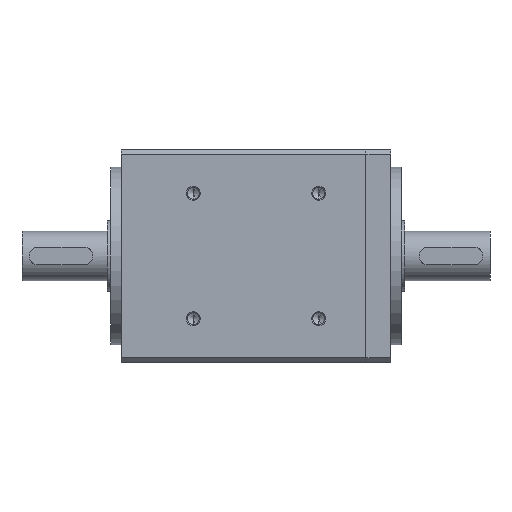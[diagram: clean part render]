
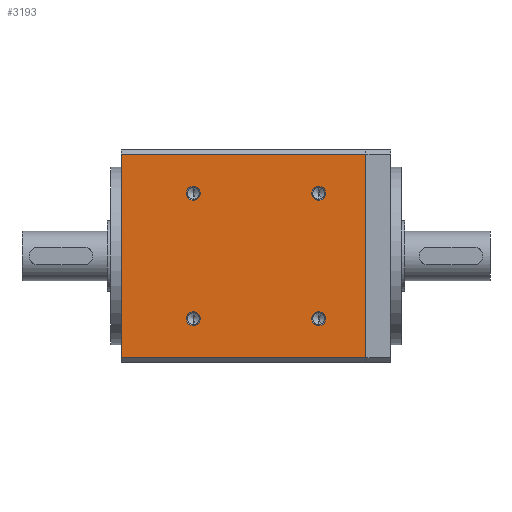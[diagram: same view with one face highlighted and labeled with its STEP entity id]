
A CAD part, left-side view. The second image highlights one B-rep face of the part: STEP entity #3193.
In plain terms, the highlighted planar face has unit normal (-1, 0, 0).
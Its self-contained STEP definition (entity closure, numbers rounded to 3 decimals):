
#51 = AXIS2_PLACEMENT_3D ( 'NONE', #4175, #4176, #4177 ) ;
#52 = AXIS2_PLACEMENT_3D ( 'NONE', #4033, #4034, #4035 ) ;
#53 = AXIS2_PLACEMENT_3D ( 'NONE', #4036, #4037, #4038 ) ;
#54 = AXIS2_PLACEMENT_3D ( 'NONE', #4039, #4040, #4041 ) ;
#195 = AXIS2_PLACEMENT_3D ( 'NONE', #770, #771, #772 ) ;
#198 = AXIS2_PLACEMENT_3D ( 'NONE', #791, #792, #793 ) ;
#201 = AXIS2_PLACEMENT_3D ( 'NONE', #812, #813, #814 ) ;
#204 = AXIS2_PLACEMENT_3D ( 'NONE', #3443, #3444, #3445 ) ;
#294 = AXIS2_PLACEMENT_3D ( 'NONE', #2096, #2097, #2098 ) ;
#457 = VERTEX_POINT ( 'NONE', #3938 ) ;
#459 = VERTEX_POINT ( 'NONE', #3919 ) ;
#478 = VERTEX_POINT ( 'NONE', #916 ) ;
#483 = VERTEX_POINT ( 'NONE', #902 ) ;
#506 = VERTEX_POINT ( 'NONE', #920 ) ;
#507 = VERTEX_POINT ( 'NONE', #919 ) ;
#534 = VERTEX_POINT ( 'NONE', #3797 ) ;
#535 = VERTEX_POINT ( 'NONE', #3794 ) ;
#770 = CARTESIAN_POINT ( 'NONE',  ( -30., 21.178, -17.678 ) ) ;
#771 = DIRECTION ( 'NONE',  ( -1., 0., 0. ) ) ;
#772 = DIRECTION ( 'NONE',  ( 0., 0., 1. ) ) ;
#791 = CARTESIAN_POINT ( 'NONE',  ( -30., 21.178, 17.678 ) ) ;
#792 = DIRECTION ( 'NONE',  ( -1., 0., 0. ) ) ;
#793 = DIRECTION ( 'NONE',  ( 0., 0., 1. ) ) ;
#812 = CARTESIAN_POINT ( 'NONE',  ( -30., -14.178, 17.678 ) ) ;
#813 = DIRECTION ( 'NONE',  ( -1., 0., 0. ) ) ;
#814 = DIRECTION ( 'NONE',  ( 0., 0., 1. ) ) ;
#856 = VERTEX_POINT ( 'NONE', #3753 ) ;
#859 = VERTEX_POINT ( 'NONE', #2790 ) ;
#860 = VERTEX_POINT ( 'NONE', #2795 ) ;
#861 = VERTEX_POINT ( 'NONE', #2793 ) ;
#902 = CARTESIAN_POINT ( 'NONE',  ( -30., 21.178, 15.678 ) ) ;
#916 = CARTESIAN_POINT ( 'NONE',  ( -30., 21.178, 19.678 ) ) ;
#919 = CARTESIAN_POINT ( 'NONE',  ( -30., 21.178, -19.678 ) ) ;
#920 = CARTESIAN_POINT ( 'NONE',  ( -30., 21.178, -15.678 ) ) ;
#1972 = LINE ( 'NONE', #4170, #1974 ) ;
#1974 = VECTOR ( 'NONE', #4171, 1000. ) ;
#1976 = CIRCLE ( 'NONE', #51, 2. ) ;
#1977 = CIRCLE ( 'NONE', #52, 2. ) ;
#2095 = PLANE ( 'NONE',  #294 ) ;
#2096 = CARTESIAN_POINT ( 'NONE',  ( -30., -27.5, -28.675 ) ) ;
#2097 = DIRECTION ( 'NONE',  ( -1., 0., 0. ) ) ;
#2098 = DIRECTION ( 'NONE',  ( 0., 0., 1. ) ) ;
#2417 = EDGE_CURVE ( 'NONE', #860, #861, #1972, .T. ) ;
#2419 = EDGE_CURVE ( 'NONE', #506, #507, #1976, .T. ) ;
#2420 = EDGE_CURVE ( 'NONE', #478, #483, #1977, .T. ) ;
#2421 = EDGE_CURVE ( 'NONE', #457, #459, #6027, .T. ) ;
#2422 = EDGE_CURVE ( 'NONE', #534, #535, #6029, .T. ) ;
#2423 = EDGE_CURVE ( 'NONE', #861, #859, #6028, .T. ) ;
#2424 = EDGE_CURVE ( 'NONE', #856, #859, #6031, .T. ) ;
#2425 = EDGE_CURVE ( 'NONE', #856, #860, #6033, .T. ) ;
#2683 = EDGE_CURVE ( 'NONE', #507, #506, #6405, .T. ) ;
#2692 = EDGE_CURVE ( 'NONE', #483, #478, #6420, .T. ) ;
#2701 = EDGE_CURVE ( 'NONE', #459, #457, #6435, .T. ) ;
#2710 = EDGE_CURVE ( 'NONE', #535, #534, #6450, .T. ) ;
#2790 = CARTESIAN_POINT ( 'NONE',  ( -30., 41.5, -28.675 ) ) ;
#2793 = CARTESIAN_POINT ( 'NONE',  ( -30., 41.5, 28.675 ) ) ;
#2795 = CARTESIAN_POINT ( 'NONE',  ( -30., -27.5, 28.675 ) ) ;
#3125 = EDGE_LOOP ( 'NONE', ( #5425, #5424, #5423, #5422 ) ) ;
#3126 = EDGE_LOOP ( 'NONE', ( #5427, #5426 ) ) ;
#3127 = EDGE_LOOP ( 'NONE', ( #5429, #5428 ) ) ;
#3128 = EDGE_LOOP ( 'NONE', ( #5431, #5430 ) ) ;
#3129 = EDGE_LOOP ( 'NONE', ( #5434, #5433 ) ) ;
#3193 = ADVANCED_FACE ( 'NONE', ( #4399, #4400, #4401, #4402, #4403 ), #2095, .T. ) ;
#3443 = CARTESIAN_POINT ( 'NONE',  ( -30., -14.178, -17.678 ) ) ;
#3444 = DIRECTION ( 'NONE',  ( -1., 0., 0. ) ) ;
#3445 = DIRECTION ( 'NONE',  ( 0., 0., 1. ) ) ;
#3753 = CARTESIAN_POINT ( 'NONE',  ( -30., -27.5, -28.675 ) ) ;
#3794 = CARTESIAN_POINT ( 'NONE',  ( -30., -14.178, -19.678 ) ) ;
#3797 = CARTESIAN_POINT ( 'NONE',  ( -30., -14.178, -15.678 ) ) ;
#3919 = CARTESIAN_POINT ( 'NONE',  ( -30., -14.178, 15.678 ) ) ;
#3938 = CARTESIAN_POINT ( 'NONE',  ( -30., -14.178, 19.678 ) ) ;
#4033 = CARTESIAN_POINT ( 'NONE',  ( -30., 21.178, 17.678 ) ) ;
#4034 = DIRECTION ( 'NONE',  ( -1., 0., 0. ) ) ;
#4035 = DIRECTION ( 'NONE',  ( 0., 0., 1. ) ) ;
#4036 = CARTESIAN_POINT ( 'NONE',  ( -30., -14.178, 17.678 ) ) ;
#4037 = DIRECTION ( 'NONE',  ( -1., 0., 0. ) ) ;
#4038 = DIRECTION ( 'NONE',  ( 0., 0., 1. ) ) ;
#4039 = CARTESIAN_POINT ( 'NONE',  ( -30., -14.178, -17.678 ) ) ;
#4040 = DIRECTION ( 'NONE',  ( -1., 0., 0. ) ) ;
#4041 = DIRECTION ( 'NONE',  ( 0., 0., 1. ) ) ;
#4042 = CARTESIAN_POINT ( 'NONE',  ( -30., 41.5, -28.675 ) ) ;
#4043 = DIRECTION ( 'NONE',  ( 0., 0., -1. ) ) ;
#4044 = CARTESIAN_POINT ( 'NONE',  ( -30., -27.5, -28.675 ) ) ;
#4045 = DIRECTION ( 'NONE',  ( 0., 1., 0. ) ) ;
#4046 = CARTESIAN_POINT ( 'NONE',  ( -30., -27.5, -28.675 ) ) ;
#4047 = DIRECTION ( 'NONE',  ( 0., 0., 1. ) ) ;
#4170 = CARTESIAN_POINT ( 'NONE',  ( -30., -27.5, 28.675 ) ) ;
#4171 = DIRECTION ( 'NONE',  ( 0., 1., 0. ) ) ;
#4175 = CARTESIAN_POINT ( 'NONE',  ( -30., 21.178, -17.678 ) ) ;
#4176 = DIRECTION ( 'NONE',  ( -1., 0., 0. ) ) ;
#4177 = DIRECTION ( 'NONE',  ( 0., 0., 1. ) ) ;
#4399 = FACE_BOUND ( 'NONE', #3129, .T. ) ;
#4400 = FACE_BOUND ( 'NONE', #3128, .T. ) ;
#4401 = FACE_BOUND ( 'NONE', #3127, .T. ) ;
#4402 = FACE_BOUND ( 'NONE', #3126, .T. ) ;
#4403 = FACE_OUTER_BOUND ( 'NONE', #3125, .T. ) ;
#5422 = ORIENTED_EDGE ( 'NONE', *, *, #2425, .T. ) ;
#5423 = ORIENTED_EDGE ( 'NONE', *, *, #2424, .F. ) ;
#5424 = ORIENTED_EDGE ( 'NONE', *, *, #2423, .T. ) ;
#5425 = ORIENTED_EDGE ( 'NONE', *, *, #2417, .T. ) ;
#5426 = ORIENTED_EDGE ( 'NONE', *, *, #2710, .F. ) ;
#5427 = ORIENTED_EDGE ( 'NONE', *, *, #2422, .F. ) ;
#5428 = ORIENTED_EDGE ( 'NONE', *, *, #2701, .F. ) ;
#5429 = ORIENTED_EDGE ( 'NONE', *, *, #2421, .F. ) ;
#5430 = ORIENTED_EDGE ( 'NONE', *, *, #2692, .F. ) ;
#5431 = ORIENTED_EDGE ( 'NONE', *, *, #2420, .F. ) ;
#5433 = ORIENTED_EDGE ( 'NONE', *, *, #2683, .F. ) ;
#5434 = ORIENTED_EDGE ( 'NONE', *, *, #2419, .F. ) ;
#6027 = CIRCLE ( 'NONE', #53, 2. ) ;
#6028 = LINE ( 'NONE', #4042, #6030 ) ;
#6029 = CIRCLE ( 'NONE', #54, 2. ) ;
#6030 = VECTOR ( 'NONE', #4043, 1000. ) ;
#6031 = LINE ( 'NONE', #4044, #6032 ) ;
#6032 = VECTOR ( 'NONE', #4045, 1000. ) ;
#6033 = LINE ( 'NONE', #4046, #6034 ) ;
#6034 = VECTOR ( 'NONE', #4047, 1000. ) ;
#6405 = CIRCLE ( 'NONE', #195, 2. ) ;
#6420 = CIRCLE ( 'NONE', #198, 2. ) ;
#6435 = CIRCLE ( 'NONE', #201, 2. ) ;
#6450 = CIRCLE ( 'NONE', #204, 2. ) ;
